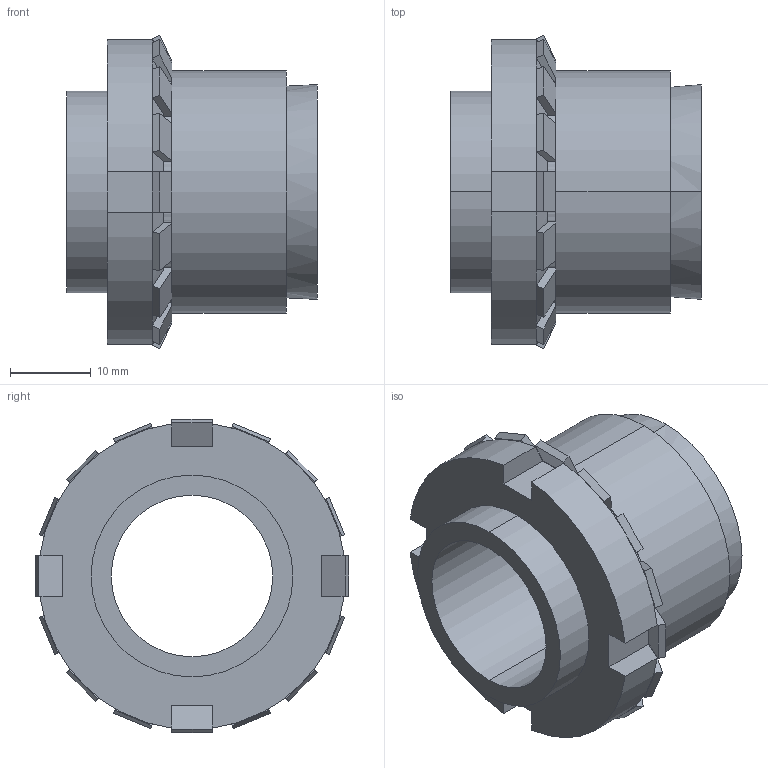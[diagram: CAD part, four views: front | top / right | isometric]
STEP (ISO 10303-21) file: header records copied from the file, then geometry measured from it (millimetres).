
FILE_DESCRIPTION (( 'STEP AP203' ), '1' );
FILE_NAME ('SI-20.STEP', '2009-09-29T17:25:23', ( 'USER' ), ( 'HOME' ), 'SwSTEP 2.0', 'SolidWorks 2007', '' );
FILE_SCHEMA (( 'CONFIG_CONTROL_DESIGN' ));
Length unit declared in the file: millimetre
Products named in the file (1): SI-20
Bounding box: 31 x 38.85 x 38.85 mm (x, y, z)
Volume: 17958.4 mm3; surface area: 23875.4 mm2
Topology: 19 solids, 19 shells, 232 faces, 574 edges, 380 vertices
Faces by surface type: plane 130, cylinder 94, cone 8
Entity records: 7043 total; most frequent: CARTESIAN_POINT 1235, DIRECTION 1220, ORIENTED_EDGE 1148, EDGE_CURVE 574, AXIS2_PLACEMENT_3D 429, VERTEX_POINT 380, VECTOR 362, LINE 362
